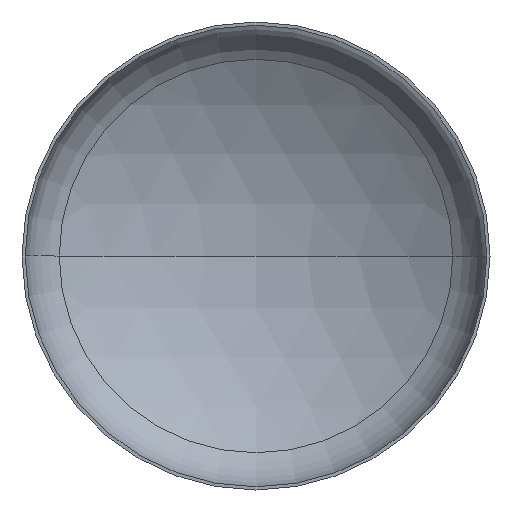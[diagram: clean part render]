
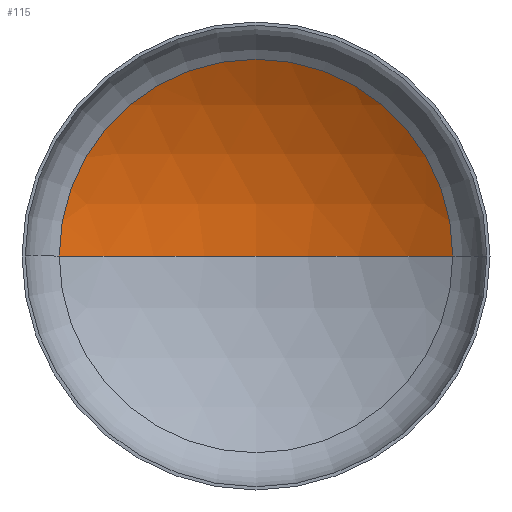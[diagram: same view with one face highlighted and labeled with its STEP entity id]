
A CAD part, front view. The second image highlights one B-rep face of the part: STEP entity #115.
In plain terms, the highlighted spherical face has radius 2560 mm.
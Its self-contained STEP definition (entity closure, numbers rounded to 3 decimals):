
#19 = AXIS2_PLACEMENT_3D ( 'NONE', #66, #398, #208 ) ;
#27 = VERTEX_POINT ( 'NONE', #225 ) ;
#31 = CIRCLE ( 'NONE', #19, 1345.546 ) ;
#33 = AXIS2_PLACEMENT_3D ( 'NONE', #289, #354, #230 ) ;
#38 = ORIENTED_EDGE ( 'NONE', *, *, #351, .T. ) ;
#48 = AXIS2_PLACEMENT_3D ( 'NONE', #270, #86, #232 ) ;
#66 = CARTESIAN_POINT ( 'NONE',  ( 0., 486.857, 0. ) ) ;
#69 = VERTEX_POINT ( 'NONE', #151 ) ;
#83 = ORIENTED_EDGE ( 'NONE', *, *, #337, .T. ) ;
#86 = DIRECTION ( 'NONE',  ( 0., 0., -1. ) ) ;
#87 = VERTEX_POINT ( 'NONE', #154 ) ;
#93 = EDGE_LOOP ( 'NONE', ( #98, #83, #38 ) ) ;
#98 = ORIENTED_EDGE ( 'NONE', *, *, #340, .F. ) ;
#109 = DIRECTION ( 'NONE',  ( -1., 0., 0. ) ) ;
#115 = ADVANCED_FACE ( 'NONE', ( #292 ), #240, .F. ) ;
#136 = AXIS2_PLACEMENT_3D ( 'NONE', #303, #179, #109 ) ;
#151 = CARTESIAN_POINT ( 'NONE',  ( 0., 868.99, 0. ) ) ;
#154 = CARTESIAN_POINT ( 'NONE',  ( -1345.546, 486.857, 0. ) ) ;
#179 = DIRECTION ( 'NONE',  ( 0., 0., -1. ) ) ;
#195 = CIRCLE ( 'NONE', #33, 2560. ) ;
#208 = DIRECTION ( 'NONE',  ( 1., 0., 0. ) ) ;
#225 = CARTESIAN_POINT ( 'NONE',  ( 1345.546, 486.857, 0. ) ) ;
#230 = DIRECTION ( 'NONE',  ( 1., 0., 0. ) ) ;
#232 = DIRECTION ( 'NONE',  ( -1., 0., 0. ) ) ;
#240 = SPHERICAL_SURFACE ( 'NONE', #136, 2560. ) ;
#270 = CARTESIAN_POINT ( 'NONE',  ( 0., -1691.01, 0. ) ) ;
#289 = CARTESIAN_POINT ( 'NONE',  ( 0., -1691.01, 0. ) ) ;
#292 = FACE_OUTER_BOUND ( 'NONE', #93, .T. ) ;
#301 = CIRCLE ( 'NONE', #48, 2560. ) ;
#303 = CARTESIAN_POINT ( 'NONE',  ( 0., -1691.01, 0. ) ) ;
#337 = EDGE_CURVE ( 'NONE', #69, #27, #301, .T. ) ;
#340 = EDGE_CURVE ( 'NONE', #69, #87, #195, .T. ) ;
#351 = EDGE_CURVE ( 'NONE', #27, #87, #31, .T. ) ;
#354 = DIRECTION ( 'NONE',  ( 0., 0., 1. ) ) ;
#398 = DIRECTION ( 'NONE',  ( 0., -1., 0. ) ) ;
